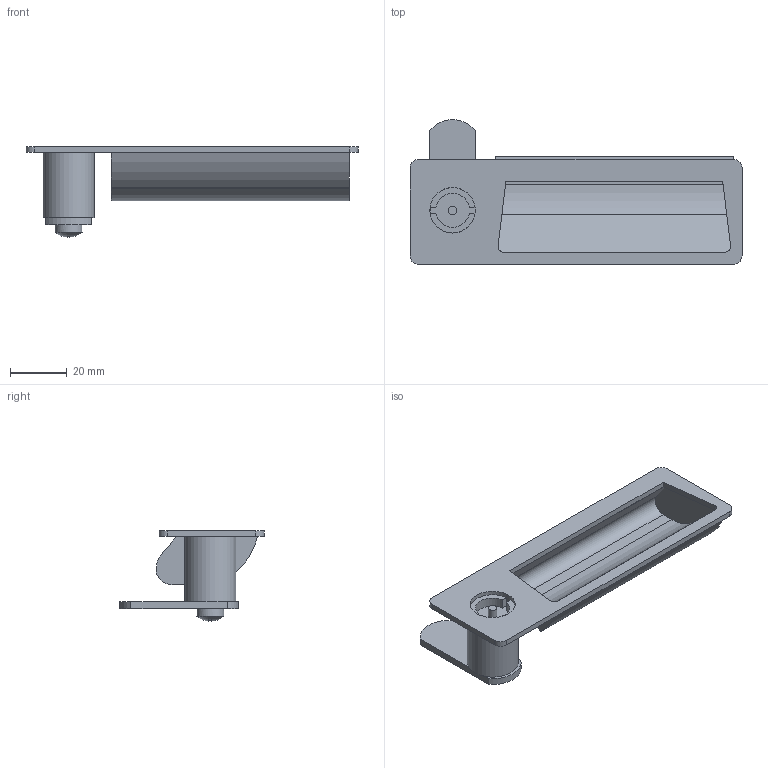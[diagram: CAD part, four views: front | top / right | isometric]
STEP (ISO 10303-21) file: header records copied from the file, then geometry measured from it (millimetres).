
FILE_DESCRIPTION( ( 'STEP AP203' ), '1' );
FILE_NAME( 'C:/Temp/Ganter_Step_05_03_2020/data/3_3/gn731_5/gn731_5_1/Latche with gripping tray GN 731.5-VDE-0-32-1-SG (0-23).stp', '2020-03-12T11:49:24', ( 'License CC BY-ND 4.0' ), ( 'CADENAS' ), ' ', 'PARTsolutions', ' ' );
FILE_SCHEMA( ( 'CONFIG_CONTROL_DESIGN' ) );
Length unit declared in the file: millimetre
Products named in the file (3): Latche with gripping tray GN 731.5-VDE-0-32-1-SG (0-23); _Latche with gripping tray GN 731.5-VDE-0-32-1-SG (0)_1; _Latche with gripping tray GN 731.5-VDE-0-32-1-SG (0-23)_2
Assembly tree (2 placements, depth 2):
  Latche with gripping tray GN 731.5-VDE-0-32-1-SG (0-23)
    _Latche with gripping tray GN 731.5-VDE-0-32-1-SG (0)_1
    _Latche with gripping tray GN 731.5-VDE-0-32-1-SG (0-23)_2
Bounding box: 117 x 50.96 x 31.88 mm (x, y, z)
Volume: 23903.2 mm3; surface area: 19868.3 mm2
Topology: 2 solids, 2 shells, 90 faces, 230 edges, 150 vertices
Faces by surface type: plane 66, cylinder 23, sphere 1
Full cylindrical faces by diameter (mm): 3 x1, 9.5 x1, 16 x1, 18 x1
Entity records: 2775 total; most frequent: DIRECTION 477, CARTESIAN_POINT 460, ORIENTED_EDGE 442, EDGE_CURVE 221, AXIS2_PLACEMENT_3D 163, LINE 151, VECTOR 151, VERTEX_POINT 146
